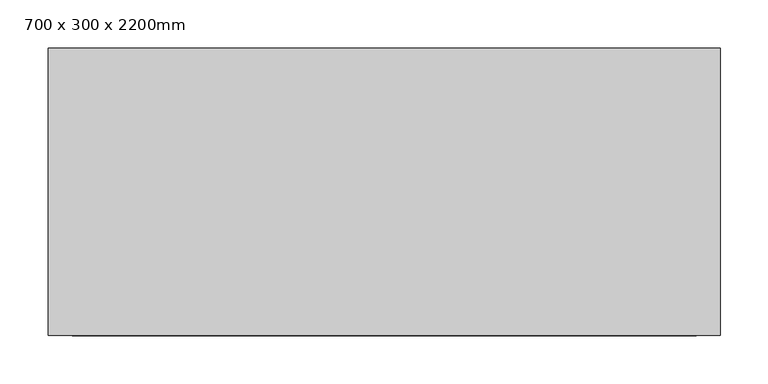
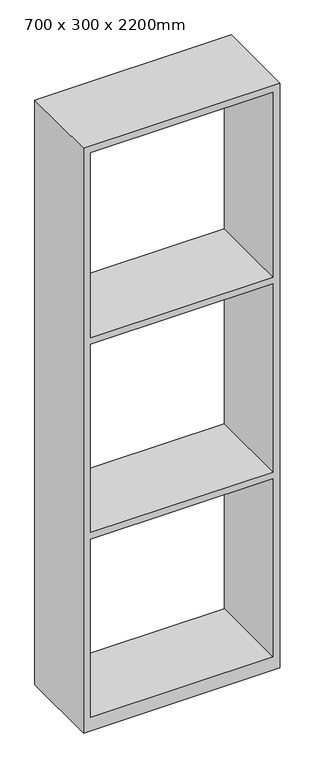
"""IFC4 building model written with IfcOpenShell, lengths in millimetres: furniture geometry, Shelving (Floor) - Allround : 700 x 300 x 2200mm."""

from ifc_helpers import new_model, si_unit, frame, origin, place, context, project, spatial, polyline, outline, extrude, source, transform, mapped, element, save


def furniture_700_x_300_x_2200mm_c5de9306(model_context):
    return source(origin(), model_context, "Body", "SweptSolid", [
        extrude(outline(polyline([(0.0, 350.0), (2200.0, 350.0), (2200.0, -350.0), (0.0, -350.0), (0.0, 350.0)]), holes=[polyline([(2175.0, 325.0), (1479.3666667, 325.0), (1479.3666667, -325.0), (2175.0, -325.0), (2175.0, 325.0)]), polyline([(50.0, 325.0), (50.0, -325.0), (720.6333333, -325.0), (720.6333333, 325.0), (50.0, 325.0)]), polyline([(1453.9666667, -325.0), (1453.9666667, 325.0), (746.0333333, 325.0), (746.0333333, -325.0), (1453.9666667, -325.0)])]), frame((0.0, 154.8, 0.0), z_axis=(0.0, 1.0, 0.0), x_axis=(0.0, 0.0, 1.0)), (0.0, 0.0, 1.0), 300.0),
    ])


if __name__ == "__main__":
    model = new_model("IFC4")
    model_context = context("Model", 3, world=origin())
    ifc_project = project(units=[si_unit("LENGTHUNIT", "METRE", prefix="MILLI")], contexts=[model_context])
    site = spatial("IfcSite", under=ifc_project)
    building = spatial("IfcBuilding", under=site)
    placement = place(None, origin())
    furniture_700_x_300_x_2200mm_shape = furniture_700_x_300_x_2200mm_c5de9306(model_context)
    element("IfcFurniture", 1, ObjectType="Shelving (Floor) - Allround : 700 x 300 x 2200mm", at=placement, inside=building, context=model_context, shape_type="MappedRepresentation", body=[
        mapped(furniture_700_x_300_x_2200mm_shape, transform((0.0, 0.0, 0.0), x_axis=(1.0, 0.0, 0.0), y_axis=(0.0, 1.0, 0.0), z_axis=(0.0, 0.0, 1.0))),
    ])
    save(model, "model.ifc")
